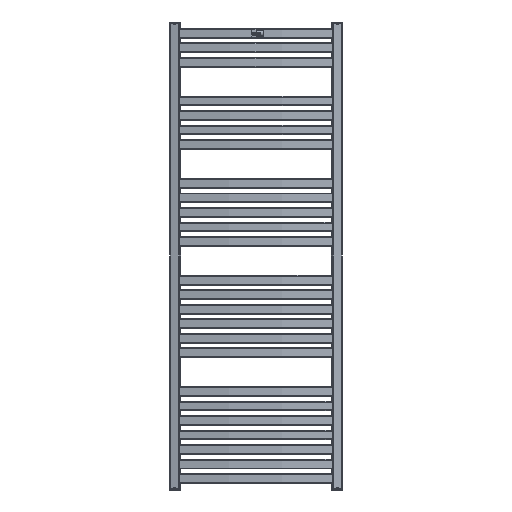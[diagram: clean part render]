
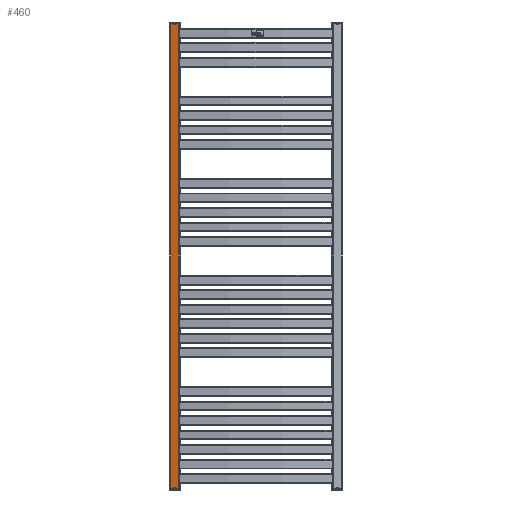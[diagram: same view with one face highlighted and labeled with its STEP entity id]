
A CAD part, front view. The second image highlights one B-rep face of the part: STEP entity #460.
In plain terms, the highlighted planar face has unit normal (-0.205, -0.979, 0) as drawn and (1, 0, 0) by its records, which use the part's own axes.
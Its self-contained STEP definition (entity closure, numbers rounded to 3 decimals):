
#460 = ADVANCED_FACE( '', ( #1124 ), #1125, .T. );
#1124 = FACE_OUTER_BOUND( '', #2070, .T. );
#1125 = PLANE( '', #2071 );
#2070 = EDGE_LOOP( '', ( #3396, #3397, #3398, #3399 ) );
#2071 = AXIS2_PLACEMENT_3D( '', #3400, #3401, #3402 );
#3396 = ORIENTED_EDGE( '', *, *, #5738, .T. );
#3397 = ORIENTED_EDGE( '', *, *, #5739, .T. );
#3398 = ORIENTED_EDGE( '', *, *, #5740, .F. );
#3399 = ORIENTED_EDGE( '', *, *, #5741, .T. );
#3400 = CARTESIAN_POINT( '', ( 15., 1446., -15. ) );
#3401 = DIRECTION( '', ( 1., 0., 0. ) );
#3402 = DIRECTION( '', ( 0., 0., -1. ) );
#5738 = EDGE_CURVE( '', #7007, #7008, #7009, .T. );
#5739 = EDGE_CURVE( '', #7008, #7010, #7011, .T. );
#5740 = EDGE_CURVE( '', #7012, #7010, #7013, .T. );
#5741 = EDGE_CURVE( '', #7012, #7007, #7014, .F. );
#7007 = VERTEX_POINT( '', #8731 );
#7008 = VERTEX_POINT( '', #8732 );
#7009 = LINE( '', #8733, #8734 );
#7010 = VERTEX_POINT( '', #8735 );
#7011 = LINE( '', #8736, #8737 );
#7012 = VERTEX_POINT( '', #8738 );
#7013 = LINE( '', #8739, #8740 );
#7014 = LINE( '', #8741, #8742 );
#8731 = CARTESIAN_POINT( '', ( 15., 1446., -12. ) );
#8732 = CARTESIAN_POINT( '', ( 15., 1446., 12. ) );
#8733 = CARTESIAN_POINT( '', ( 15., 1446., -15. ) );
#8734 = VECTOR( '', #10397, 1000. );
#8735 = CARTESIAN_POINT( '', ( 15., 0., 12. ) );
#8736 = CARTESIAN_POINT( '', ( 15., 1446., 12. ) );
#8737 = VECTOR( '', #10398, 1000. );
#8738 = CARTESIAN_POINT( '', ( 15., 0., -12. ) );
#8739 = CARTESIAN_POINT( '', ( 15., 0., -15. ) );
#8740 = VECTOR( '', #10399, 1000. );
#8741 = CARTESIAN_POINT( '', ( 15., 1446., -12. ) );
#8742 = VECTOR( '', #10400, 1000. );
#10397 = DIRECTION( '', ( 0., 0., 1. ) );
#10398 = DIRECTION( '', ( 0., -1., 0. ) );
#10399 = DIRECTION( '', ( 0., 0., 1. ) );
#10400 = DIRECTION( '', ( 0., -1., 0. ) );
